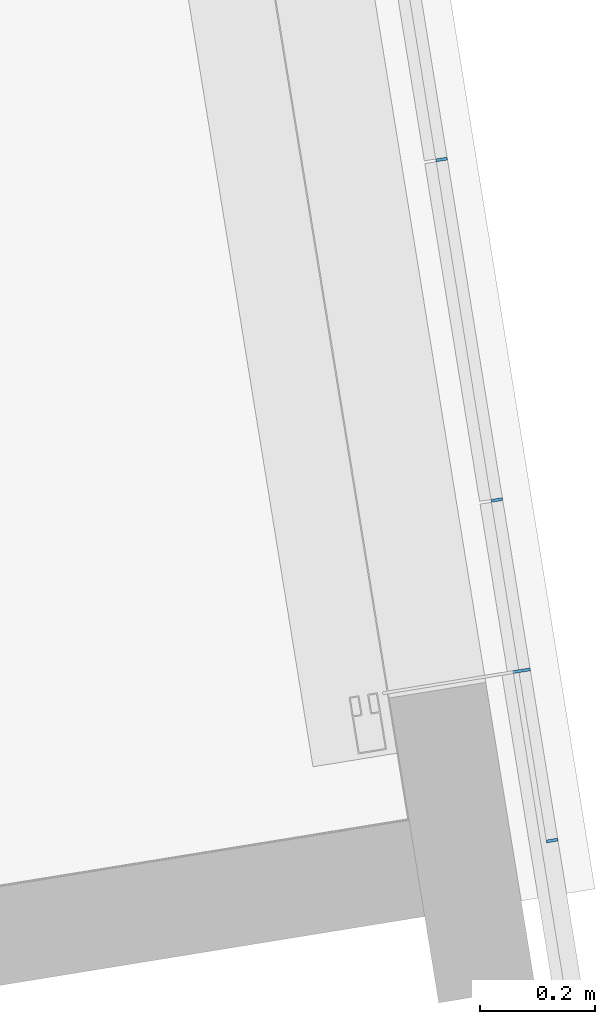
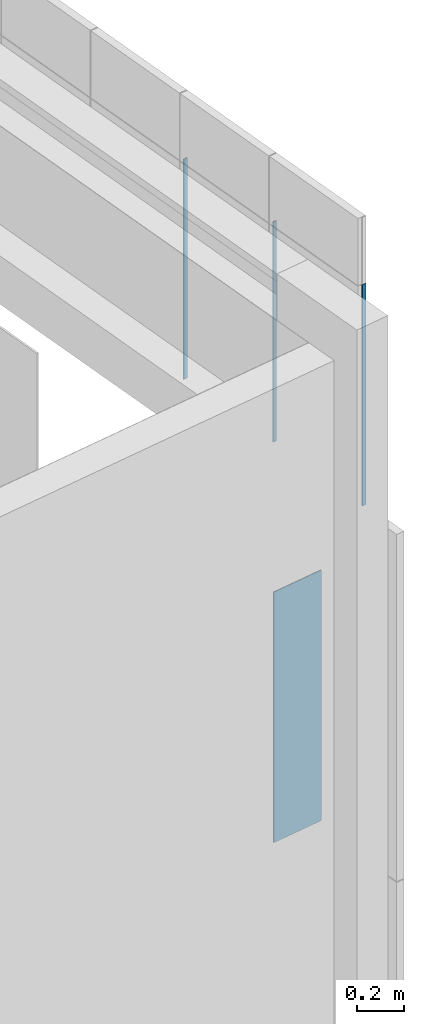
# One storey, part 6 of 38: 4 members, 1 element without a shape of its own.
"""IFC2X3 building model written with IfcOpenShell, lengths in millimetres."""

from ifc_helpers import new_model, entity, si_unit, converted_unit, derived_unit, direction, frame, origin, origin_with_axes, origin_2d_with_axis, place, context, subcontext, project, spatial, rectangle, extrude, source, transform, mapped, material, type_object, element, aggregate, save


model = new_model("IFC2X3")

# Units and contexts
model_context = context("Model", 3, precision=0.01, world=origin(), true_north=direction((6.12323399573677e-17, 1.0)))
plan_context = context("Plan", 3, precision=1e-05, world=origin_with_axes())
body_context = subcontext(model_context, "Body", "Model", "MODEL_VIEW")
ifc_project = project(units=[converted_unit("PLANEANGLEUNIT", "DEGREE", entity("IfcPositiveLengthMeasure", 0.0174532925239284), si_unit("PLANEANGLEUNIT", "RADIAN"), dimensions=[0, 0, 0, 0, 0, 0, 0]), si_unit("AREAUNIT", "SQUARE_METRE"), si_unit("LENGTHUNIT", "METRE", prefix="MILLI"), si_unit("MASSUNIT", "GRAM", prefix="KILO"), si_unit("POWERUNIT", "WATT"), si_unit("PRESSUREUNIT", "PASCAL", prefix="KILO"), si_unit("FORCEUNIT", "NEWTON", prefix="KILO"), si_unit("ELECTRICVOLTAGEUNIT", "VOLT"), si_unit("ELECTRICCURRENTUNIT", "AMPERE"), si_unit("THERMODYNAMICTEMPERATUREUNIT", "DEGREE_CELSIUS"), si_unit("TIMEUNIT", "SECOND"), si_unit("VOLUMEUNIT", "CUBIC_METRE"), derived_unit("LINEARVELOCITYUNIT", [(si_unit("LENGTHUNIT", "METRE"), 1), (si_unit("TIMEUNIT", "SECOND"), -1)]), derived_unit("VOLUMETRICFLOWRATEUNIT", [(si_unit("VOLUMEUNIT", "CUBIC_METRE"), 1), (si_unit("TIMEUNIT", "SECOND"), -1)]), derived_unit("THERMALTRANSMITTANCEUNIT", [(si_unit("POWERUNIT", "WATT"), 1), (si_unit("THERMODYNAMICTEMPERATUREUNIT", "KELVIN"), -1), (si_unit("AREAUNIT", "SQUARE_METRE"), -1)]), derived_unit("SOUNDPRESSUREUNIT", [(si_unit("PRESSUREUNIT", "PASCAL"), 1)])], contexts=[model_context, plan_context])

# Site, building, storey
site_placement = place(None, frame((-0.00071070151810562, 0.00438415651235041, 0.0), z_axis=(0.0, 0.0, 1.0), x_axis=(-0.160236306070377, 0.987078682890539, 0.0)))
site = spatial("IfcSite", under=ifc_project, at=site_placement, Name="Default", CompositionType="ELEMENT")
building_placement = place(site_placement, origin_with_axes())
building = spatial("IfcBuilding", under=site, at=building_placement, Name="TOO", CompositionType="ELEMENT")
storey_placement = place(building_placement, frame((0.0, 0.0, 50999.9999999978), z_axis=(0.0, 0.0, 1.0), x_axis=(1.0, 0.0, 0.0)))
storey = spatial("IfcBuildingStorey", under=building, at=storey_placement, Name="Nivå D-H01", CompositionType="ELEMENT", Elevation=50999.9999999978)

# Curtain wall, members
curtain_wall_type = type_object("IfcCurtainWallType", Name="Curtain Wall:Curtain Wall Standard (Bruk kun denne)", PredefinedType="NOTDEFINED")
curtain_wall_placement = place(storey_placement, frame((0.0, 0.0, -50999.9999999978), z_axis=(0.0, 0.0, 1.0), x_axis=(1.0, 0.0, 0.0)))
curtain_wall = element("IfcCurtainWall", 1, at=curtain_wall_placement, inside=storey, type_object=curtain_wall_type, Name="Curtain Wall:Curtain Wall Standard (Bruk kun denne)", ObjectType="Curtain Wall:Curtain Wall Standard (Bruk kun denne)")
ifc_material_1 = material(Name="A200 - Metall - Stål")
member_type_1 = type_object("IfcMemberType", Name="Rectangular Mullion:A248-M03 kantbeskyt. åpning 260", PredefinedType="MULLION", material=ifc_material_1)
shared_shape_1 = source(origin(), body_context, "Body", "SweptSolid", [
    extrude(rectangle(XDim=5.0, YDim=260.0, at=origin_2d_with_axis()), frame((0.0, 130.0, -1300.0), z_axis=(0.0, 0.0, 1.0), x_axis=(-1.0, 0.0, 0.0)), (0.0, 0.0, 1.0), 1300.0),
])
member_1_placement = place(curtain_wall_placement, frame((769077.619644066, -604232.480498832, 51899.9999999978), z_axis=(0.0, 0.0, -1.0), x_axis=(-1.0, 0.0, 0.0)))
member_1 = element("IfcMember", 2, at=member_1_placement, type_object=member_type_1, material=ifc_material_1, Name="Rectangular Mullion:A248-M03 kantbeskyt. åpning 260", ObjectType="Rectangular Mullion:A248-M03 kantbeskyt. åpning 260", context=body_context, shape_type="MappedRepresentation", body=[
    mapped(shared_shape_1, transform((0.0, 0.0, 0.0), scale=1.0)),
])
ifc_material_2 = material(Name="Rubber")
member_type_2 = type_object("IfcMemberType", Name="Rectangular Mullion:A246 - Fuge 5mm L09", PredefinedType="MULLION", material=ifc_material_2)
shared_shape_2 = source(origin(), body_context, "Body", "SweptSolid", [
    extrude(rectangle(XDim=5.0, YDim=20.0, at=origin_2d_with_axis()), frame((0.0, 10.0, -1147.50000000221), z_axis=(0.0, 0.0, 1.0), x_axis=(-1.0, 0.0, 0.0)), (0.0, 0.0, 1.0), 1147.50000000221),
])
member_2_placement = place(curtain_wall_placement, frame((768777.619644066, -604232.480498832, 53702.4999999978), z_axis=(0.0, 0.0, -1.0), x_axis=(-1.0, 0.0, 0.0)))
member_2 = element("IfcMember", 3, at=member_2_placement, type_object=member_type_2, material=ifc_material_2, Name="Rectangular Mullion:A246 - Fuge 5mm L09", ObjectType="Rectangular Mullion:A246 - Fuge 5mm L09", context=body_context, shape_type="MappedRepresentation", body=[
    mapped(shared_shape_2, transform((0.0, 0.0, 0.0), scale=1.0)),
])
member_type_3 = type_object("IfcMemberType", Name="Rectangular Mullion:A246 - Fuge 5mm L09", PredefinedType="MULLION", material=ifc_material_2)
shared_shape_3 = source(origin(), body_context, "Body", "SweptSolid", [
    extrude(rectangle(XDim=5.0, YDim=20.0, at=origin_2d_with_axis()), frame((0.0, 10.0, -1142.50000000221), z_axis=(0.0, 0.0, 1.0), x_axis=(-1.0, 0.0, 0.0)), (0.0, 0.0, 1.0), 1142.50000000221),
])
member_3_placement = place(curtain_wall_placement, frame((769977.619644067, -604232.480498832, 53707.4999999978), z_axis=(0.0, 0.0, -1.0), x_axis=(-1.0, 0.0, 0.0)))
member_3 = element("IfcMember", 4, at=member_3_placement, type_object=member_type_3, material=ifc_material_2, Name="Rectangular Mullion:A246 - Fuge 5mm L09", ObjectType="Rectangular Mullion:A246 - Fuge 5mm L09", context=body_context, shape_type="MappedRepresentation", body=[
    mapped(shared_shape_3, transform((0.0, 0.0, 0.0), scale=1.0)),
])
member_4_placement = place(curtain_wall_placement, frame((769377.619644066, -604232.480498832, 53707.4999999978), z_axis=(0.0, 0.0, -1.0), x_axis=(-1.0, 0.0, 0.0)))
member_4 = element("IfcMember", 5, at=member_4_placement, type_object=member_type_3, material=ifc_material_2, Name="Rectangular Mullion:A246 - Fuge 5mm L09", ObjectType="Rectangular Mullion:A246 - Fuge 5mm L09", context=body_context, shape_type="MappedRepresentation", body=[
    mapped(shared_shape_3, transform((0.0, 0.0, 0.0), scale=1.0)),
])
aggregate(curtain_wall, [member_1, member_3, member_4, member_2])

save(model, "model.ifc")
